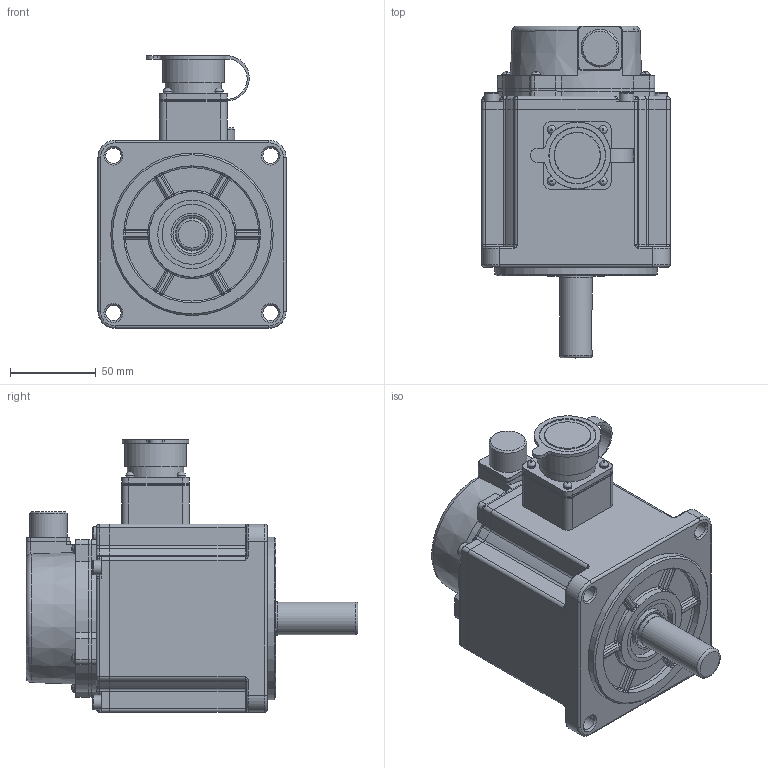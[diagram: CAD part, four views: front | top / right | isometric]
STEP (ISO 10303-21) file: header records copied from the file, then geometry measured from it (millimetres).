
FILE_DESCRIPTION(/* description */ (''),/* implementation_level */ '2;1');
FILE_NAME(/* name */ '标准4N.stp',/* time_stamp */ '2024-04-19T09:36:14+08:00',/* author */ (''),/* organization */ (''),/* preprocessor_version */ 'ST-DEVELOPER v18.1',/* originating_system */ 'SIEMENS PLM Software NX 2000',/* authorisation */ '');
FILE_SCHEMA (('AUTOMOTIVE_DESIGN { 1 0 10303 214 3 1 1 1 }'));
Length unit declared in the file: millimetre
Products named in the file (1): 92504378DBD25y0e
Bounding box: 110 x 194 x 159.5 mm (x, y, z)
Volume: 1329460.7 mm3; surface area: 179434.6 mm2
Topology: 21 solids, 23 shells, 996 faces, 2337 edges, 1372 vertices
Faces by surface type: cylinder 364, plane 330, torus 94, bspline 92, sphere 60, cone 56
Full cylindrical faces by diameter (mm): 2 x4, 2.5 x10, 3.5 x4, 4.1 x8, 4.2 x3, 4.826 x4, 5 x6, 5.5 x3, 8.5 x4, 9 x4, 19 x1, 19.6 x1, 20 x1, 22 x1, 22.288 x1, 24.616 x1, 27 x2, 30 x1, 33 x3, 35 x1, 36 x1, 40 x2, 95 x1, 100 x1, 104 x1
Entity records: 30268 total; most frequent: CARTESIAN_POINT 8343, DIRECTION 4780, ORIENTED_EDGE 4226, EDGE_CURVE 2113, AXIS2_PLACEMENT_3D 1964, VERTEX_POINT 1325, EDGE_LOOP 1204, CIRCLE 1043
